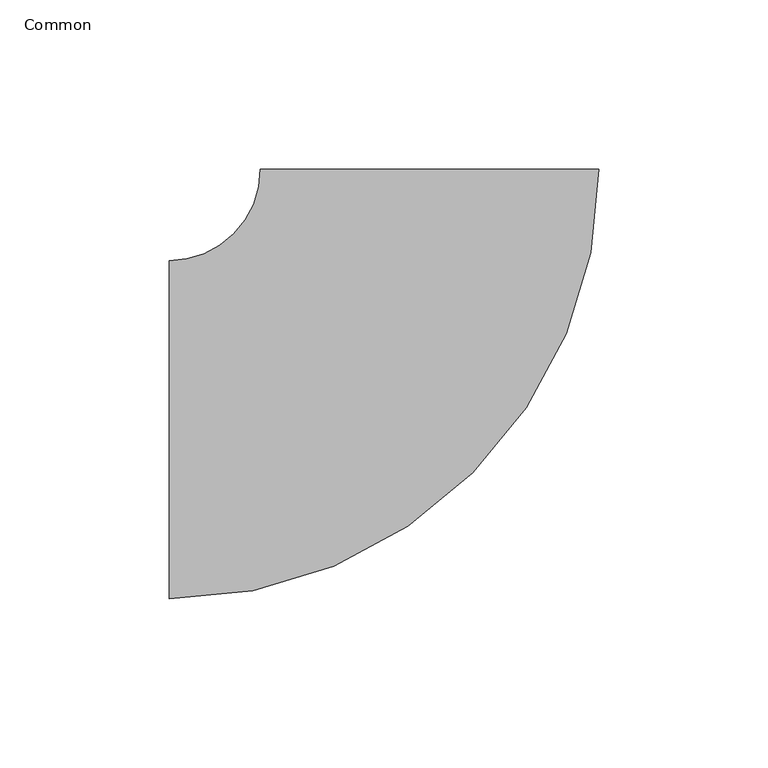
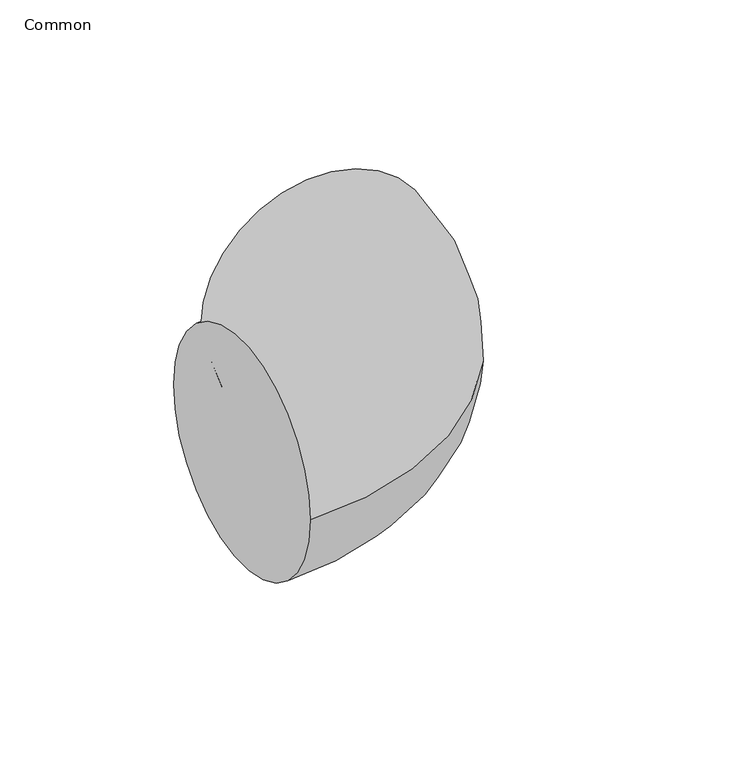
"""IFC4 building model written with IfcOpenShell, lengths in millimetres: pipe fitting geometry, 011_エルボ : Common."""

import ifcopenshell
import ifcopenshell.guid

model = None  # the IFC model being written
_history = None  # IfcOwnerHistory: only IFC2X3 demands one
_inside = {}  # id of a spatial element -> (the spatial element, [elements in it])
_under = {}  # id of a project, library or spatial element -> (it, [spatial elements below it])
_declared = {}  # id of a project -> (the project, [libraries it declares])
_typed = {}  # id of a type object -> (the type object, [elements of that type])
_made_of = {}  # id of a material, layer set ... -> (it, [elements and type objects made of it])


def new_model(schema):
    """Start an empty IFC model of exactly this schema.

    Asked for "IFC4X3", IfcOpenShell would pick the latest addendum, in which some entities
    have other attributes; the version numbers below select the first issue.
    IFC2X3 requires an IfcOwnerHistory on every rooted entity: one is made here for all.
    """
    global model, _history
    if schema == "IFC4X3":
        model = ifcopenshell.file(schema_version=(4, 3, 0, 0))
    else:
        model = ifcopenshell.file(schema=schema)
    _inside.clear()
    _under.clear()
    _declared.clear()
    _typed.clear()
    _made_of.clear()
    _history = None
    if model.schema == "IFC2X3":
        org = make("IfcOrganization", Name="unknown")
        user = make(
            "IfcPersonAndOrganization",
            ThePerson=make("IfcPerson", FamilyName="unknown"),
            TheOrganization=org,
        )
        app = make(
            "IfcApplication",
            ApplicationDeveloper=org,
            Version="unknown",
            ApplicationFullName="unknown",
            ApplicationIdentifier="unknown",
        )
        _history = make(
            "IfcOwnerHistory",
            OwningUser=user,
            OwningApplication=app,
            ChangeAction="ADDED",
            CreationDate=0,
        )
    return model


def make(cls, **values):
    """One entity of the class cls with the attributes given. An attribute that is None is left unset."""
    return model.create_entity(
        cls, **{name: value for name, value in values.items() if value is not None}
    )


def rooted(cls, **values):
    """An entity with a GlobalId (a new one), such as an element, a storey or a relation."""
    return make(cls, GlobalId=ifcopenshell.guid.new(), OwnerHistory=_history, **values)


def si_unit(unit_type, name, prefix=None):
    """IfcSIUnit, for example si_unit("LENGTHUNIT", "METRE", prefix="MILLI")."""
    return make("IfcSIUnit", UnitType=unit_type, Prefix=prefix, Name=name)


def assignment(units):
    """IfcUnitAssignment: the units of a project."""
    return None if units is None else make("IfcUnitAssignment", Units=units)


def point(xyz):
    """IfcCartesianPoint."""
    return None if xyz is None else make("IfcCartesianPoint", Coordinates=xyz)


def direction(xyz):
    """IfcDirection."""
    return None if xyz is None else make("IfcDirection", DirectionRatios=xyz)


def frame(location, z_axis=None, x_axis=None):
    """IfcAxis2Placement3D, a coordinate frame: its origin and axes. An axis left out is left unset."""
    return make(
        "IfcAxis2Placement3D",
        Location=point(location),
        Axis=direction(z_axis),
        RefDirection=direction(x_axis),
    )


def origin():
    """The frame at (0, 0, 0) with its axes left unset."""
    return frame((0.0, 0.0, 0.0))


def place(relative_to, where):
    """IfcLocalPlacement: puts the frame where relative to a parent placement (None: the world)."""
    return make(
        "IfcLocalPlacement", PlacementRelTo=relative_to, RelativePlacement=where
    )


def context(
    kind, dimensions, precision=None, world=None, true_north=None, identifier=None
):
    """IfcGeometricRepresentationContext, for example the 3D "Model" context."""
    return make(
        "IfcGeometricRepresentationContext",
        ContextIdentifier=identifier,
        ContextType=kind,
        CoordinateSpaceDimension=dimensions,
        Precision=precision,
        WorldCoordinateSystem=world,
        TrueNorth=true_north,
    )


def project(units=None, contexts=None):
    """IfcProject with its units and contexts."""
    return rooted(
        "IfcProject",
        Name="project",
        RepresentationContexts=contexts,
        UnitsInContext=assignment(units),
    )


def spatial(cls, under=None, at=None, **own):
    """A site, building, storey or space (cls), placed at a placement, below another one or the project."""
    s = rooted(cls, ObjectPlacement=at, **own)
    if under is not None:
        _under.setdefault(under.id(), (under, []))[1].append(s)
    return s


def circle_curve(where, radius):
    """IfcCircle in the frame where."""
    return make("IfcCircle", Position=where, Radius=radius)


def ellipse_curve(where, semi_axis1, semi_axis2):
    """IfcEllipse in the frame where."""
    return make(
        "IfcEllipse", Position=where, SemiAxis1=semi_axis1, SemiAxis2=semi_axis2
    )


def trimmed(basis, trim1, trim2, sense, master):
    """IfcTrimmedCurve: the piece of a basis curve between two trims."""
    return make(
        "IfcTrimmedCurve",
        BasisCurve=basis,
        Trim1=trim1,
        Trim2=trim2,
        SenseAgreement=sense,
        MasterRepresentation=master,
    )


def shape(context_of_items, identifier, shape_type, items):
    """IfcShapeRepresentation: the items that make up one representation, for example the "Body"."""
    return make(
        "IfcShapeRepresentation",
        ContextOfItems=context_of_items,
        RepresentationIdentifier=identifier,
        RepresentationType=shape_type,
        Items=items,
    )


def source(mapping_origin, context_of_items, identifier, shape_type, items):
    """IfcRepresentationMap: a shape defined once, which mapped items show again and again."""
    return make(
        "IfcRepresentationMap",
        MappingOrigin=mapping_origin,
        MappedRepresentation=shape(context_of_items, identifier, shape_type, items),
    )


def transform(
    local_origin,
    x_axis=None,
    y_axis=None,
    z_axis=None,
    scale=None,
    scale2=None,
    scale3=None,
    uniform=True,
):
    """IfcCartesianTransformationOperator3D, or its non-uniform kind. x_axis, y_axis, z_axis: its Axis1, 2, 3."""
    if uniform:
        return make(
            "IfcCartesianTransformationOperator3D",
            Axis1=direction(x_axis),
            Axis2=direction(y_axis),
            LocalOrigin=point(local_origin),
            Scale=scale,
            Axis3=direction(z_axis),
        )
    return make(
        "IfcCartesianTransformationOperator3DnonUniform",
        Axis1=direction(x_axis),
        Axis2=direction(y_axis),
        LocalOrigin=point(local_origin),
        Scale=scale,
        Axis3=direction(z_axis),
        Scale2=scale2,
        Scale3=scale3,
    )


def mapped(mapping_source, mapping_target):
    """IfcMappedItem: shows the shape of a source again, moved by a transform."""
    return make(
        "IfcMappedItem", MappingSource=mapping_source, MappingTarget=mapping_target
    )


def made_of(thing, what):
    """Note that an element or type object is made of a material, layer set ...; save() writes the relation."""
    if what is not None:
        _made_of.setdefault(what.id(), (what, []))[1].append(thing)
    return thing


def element(
    cls,
    number,
    at=None,
    inside=None,
    cuts=None,
    type_object=None,
    material=None,
    context=None,
    identifier="Body",
    shape_type=None,
    held_by="IfcProductDefinitionShape",
    body=None,
    shapes=None,
    **own,
):
    """One element of the class cls, such as IfcWall. Its Tag is "e" and its number.

    at: its placement. inside: the storey or other place that contains it. cuts: it is an
    opening in that element (IfcRelVoidsElement). A single representation is given by context,
    identifier, shape_type and body (its items); several are given by shapes. held_by: the class
    of the entity that holds the representations. save() writes the other relations.
    """
    e = rooted(cls, Tag="e%d" % number, ObjectPlacement=at, **own)
    if body is not None:
        shapes = [shape(context, identifier, shape_type, body)]
    if shapes is not None:
        e.Representation = make(held_by, Representations=shapes)
    if inside is not None:
        _inside.setdefault(inside.id(), (inside, []))[1].append(e)
    if cuts is not None:
        rooted(
            "IfcRelVoidsElement", RelatingBuildingElement=cuts, RelatedOpeningElement=e
        )
    if type_object is not None:
        _typed.setdefault(type_object.id(), (type_object, []))[1].append(e)
    return made_of(e, material)


def aggregate(whole, parts):
    """IfcRelAggregates: a whole, such as a stair, and the parts it consists of."""
    return rooted("IfcRelAggregates", RelatingObject=whole, RelatedObjects=parts)


def save(model, path):
    """Write the relations noted so far, then the file.

    IfcRelAggregates (storeys below a building ...), IfcRelContainedInSpatialStructure (elements
    in a storey), IfcRelDefinesByType, IfcRelAssociatesMaterial and IfcRelDeclares: one each for
    every whole, place, type object, material and project.
    """
    for whole, parts in _under.values():
        aggregate(whole, parts)
    for where, things in _inside.values():
        rooted(
            "IfcRelContainedInSpatialStructure",
            RelatedElements=things,
            RelatingStructure=where,
        )
    for kind, things in _typed.values():
        rooted("IfcRelDefinesByType", RelatedObjects=things, RelatingType=kind)
    for what, things in _made_of.values():
        rooted("IfcRelAssociatesMaterial", RelatedObjects=things, RelatingMaterial=what)
    for by, libraries in _declared.values():
        rooted("IfcRelDeclares", RelatingContext=by, RelatedDefinitions=libraries)
    model.write(path)


def plane_surface(at):
    """IfcPlane: the flat surface through the origin of the frame at, square to its z axis."""
    return make("IfcPlane", Position=at)


def revolved_surface(curve, axis_point, axis_direction):
    """IfcSurfaceOfRevolution: the curve turned about the line through axis_point along axis_direction."""
    return make(
        "IfcSurfaceOfRevolution",
        SweptCurve=make("IfcArbitraryOpenProfileDef", ProfileType="CURVE", Curve=curve),
        AxisPosition=make("IfcAxis1Placement", Location=point(axis_point), Axis=direction(axis_direction)),
    )


def advanced_brep(points, edges, surfaces, faces):
    """IfcAdvancedBrep: a solid bounded by faces that lie on surfaces and meet in shared edges.

    An edge is (start, end): straight between two places in points (the first is 0);
    or (start, end, curve); or (start, end, curve, False) where it runs against its curve.
    A face is (place in surfaces, loops), or (place, loops, False) where it looks against
    its surface's normal. A loop lists edges by number (the first is 1), with a minus sign
    where the edge is run from its end to its start. The first loop is the outer one.
    """
    corners = [point(p) for p in points]
    vertices = [make("IfcVertexPoint", VertexGeometry=c) for c in corners]
    made = []
    for start, end, *more in edges:
        made.append(
            make(
                "IfcEdgeCurve",
                EdgeStart=vertices[start],
                EdgeEnd=vertices[end],
                EdgeGeometry=more[0] if more else make("IfcPolyline", Points=[corners[start], corners[end]]),
                SameSense=more[1] if len(more) > 1 else True,
            )
        )
    hull = []
    for where, loops, *sense in faces:
        bounds = []
        for j, loop in enumerate(loops):
            ring = [make("IfcOrientedEdge", EdgeElement=made[abs(k) - 1], Orientation=k > 0) for k in loop]
            bounds.append(
                make(
                    "IfcFaceOuterBound" if j == 0 else "IfcFaceBound",
                    Bound=make("IfcEdgeLoop", EdgeList=ring),
                    Orientation=True,
                )
            )
        hull.append(make("IfcAdvancedFace", Bounds=bounds, FaceSurface=surfaces[where], SameSense=sense[0] if sense else True))
    return make("IfcAdvancedBrep", Outer=make("IfcClosedShell", CfsFaces=hull))


def common_279bc6e8(model_context):
    return source(origin(), model_context, "Body", "AdvancedBrep", [
        advanced_brep(
        [(-77.0, -50.0, 0.0), (-77.0, 50.0, 0.0), (50.0, 77.0, 0.0), (-50.0, 77.0, 0.0)],
        [
            (0, 1, circle_curve(frame((-77.0, 0.0, 0.0), z_axis=(-1.0, 0.0, 0.0), x_axis=(0.0, 1.0, 0.0)), 50.0)),
            (1, 0, circle_curve(frame((-77.0, 0.0, 0.0), z_axis=(-1.0, 0.0, 0.0), x_axis=(0.0, 1.0, 0.0)), 50.0)),
            (2, 3, circle_curve(frame((0.0, 77.0, 0.0), z_axis=(0.0, 1.0, 0.0), x_axis=(-1.0, 0.0, 0.0)), 50.0)),
            (3, 2, circle_curve(frame((0.0, 77.0, 0.0), z_axis=(0.0, 1.0, 0.0), x_axis=(-1.0, 0.0, 0.0)), 50.0)),
            (3, 1, circle_curve(frame((-77.0, 77.0, 0.0), z_axis=(0.0, 0.0, -1.0), x_axis=(0.0, -1.0, 0.0)), 27.0)),
            (0, 2, circle_curve(frame((-77.0, 77.0, 0.0), z_axis=(0.0, 0.0, 1.0), x_axis=(0.0, -1.0, 0.0)), 127.0)),
        ],
        [
            plane_surface(frame((-77.0, 0.0, 0.0), z_axis=(-1.0, 0.0, 0.0), x_axis=(0.0, 0.0, 1.0))),
            plane_surface(frame((0.0, 77.0, 0.0), z_axis=(0.0, 1.0, 0.0), x_axis=(0.0, 0.0, 1.0))),
            revolved_surface(trimmed(ellipse_curve(frame((-77.0, 0.0, 0.0), z_axis=(-1.0, 0.0, 0.0), x_axis=(0.0, 1.0, 0.0)), 50.0, 50.0), [point((-77.0, -50.0, 0.0))], [point((-77.0, 50.0, 0.0))], True, "CARTESIAN"), (-77.0, 77.0, 0.0), (0.0, 0.0, 1.0)),
            revolved_surface(trimmed(ellipse_curve(frame((-77.0, 0.0, 0.0), z_axis=(-1.0, 0.0, 0.0), x_axis=(0.0, 1.0, 0.0)), 50.0, 50.0), [point((-77.0, 50.0, 0.0))], [point((-77.0, -50.0, 0.0))], True, "CARTESIAN"), (-77.0, 77.0, 0.0), (0.0, 0.0, 1.0)),
        ],
        [
            (0, [[1, 2]]),
            (1, [[3, 4]]),
            (2, [[5, -1, 6, -4]]),
            (3, [[-6, -2, -5, -3]]),
        ],
    ),
    ])


if __name__ == "__main__":
    model = new_model("IFC4")
    model_context = context("Model", 3, world=origin())
    ifc_project = project(units=[si_unit("LENGTHUNIT", "METRE", prefix="MILLI")], contexts=[model_context])
    site = spatial("IfcSite", under=ifc_project)
    building = spatial("IfcBuilding", under=site)
    placement = place(None, origin())
    common_shape = common_279bc6e8(model_context)
    element("IfcPipeFitting", 1, ObjectType="011_エルボ : Common", at=placement, inside=building, context=model_context, shape_type="MappedRepresentation", body=[
        mapped(common_shape, transform((0.0, 0.0, 0.0), x_axis=(1.0, 0.0, 0.0), y_axis=(0.0, 1.0, 0.0), z_axis=(0.0, 0.0, 1.0))),
    ])
    save(model, "model.ifc")
